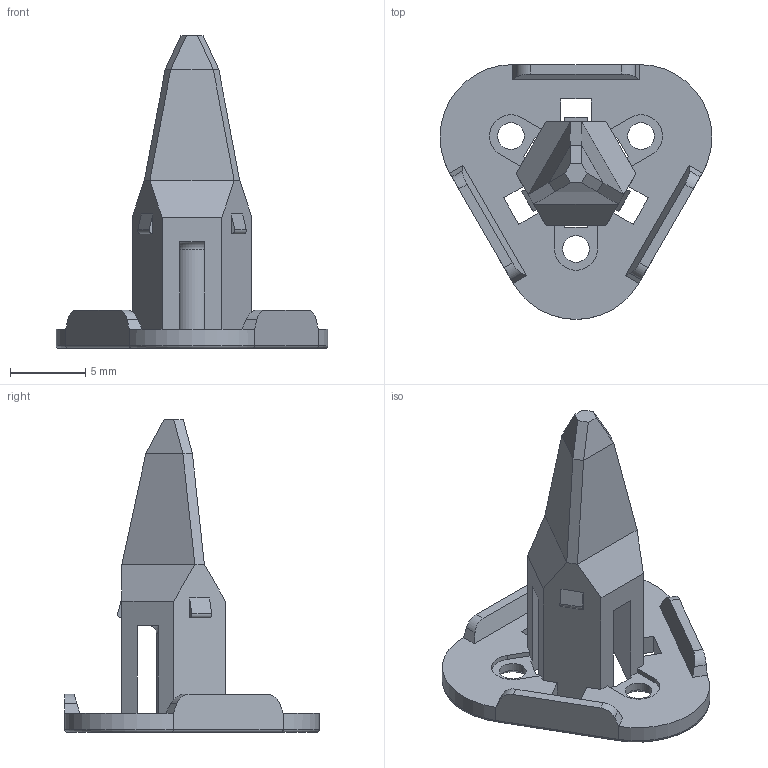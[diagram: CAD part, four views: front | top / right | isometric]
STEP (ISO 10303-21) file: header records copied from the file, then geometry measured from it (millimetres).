
FILE_DESCRIPTION((''),'2;1');
FILE_NAME('C-W3S-1939-P012','2013-03-28T',('workeradm'),('Tyco Electronics Ltd.'),'PRO/ENGINEER BY PARAMETRIC TECHNOLOGY CORPORATION, 2011490','PRO/ENGINEER BY PARAMETRIC TECHNOLOGY CORPORATION, 2011490','');
FILE_SCHEMA(('AUTOMOTIVE_DESIGN { 1 0 10303 214 1 1 1 1 }'));
Length unit declared in the file: millimetre
Products named in the file (1): C-W3S-1939-P012
Bounding box: 18.1 x 16.97 x 20.83 mm (x, y, z)
Volume: 615 mm3; surface area: 1051.4 mm2
Topology: 1 solids, 1 shells, 114 faces, 319 edges, 204 vertices
Faces by surface type: plane 77, cylinder 26, cone 6, torus 5
Entity records: 4000 total; most frequent: CARTESIAN_POINT 681, ORIENTED_EDGE 638, DIRECTION 594, EDGE_CURVE 319, VECTOR 248, LINE 248, VERTEX_POINT 204, AXIS2_PLACEMENT_3D 173
